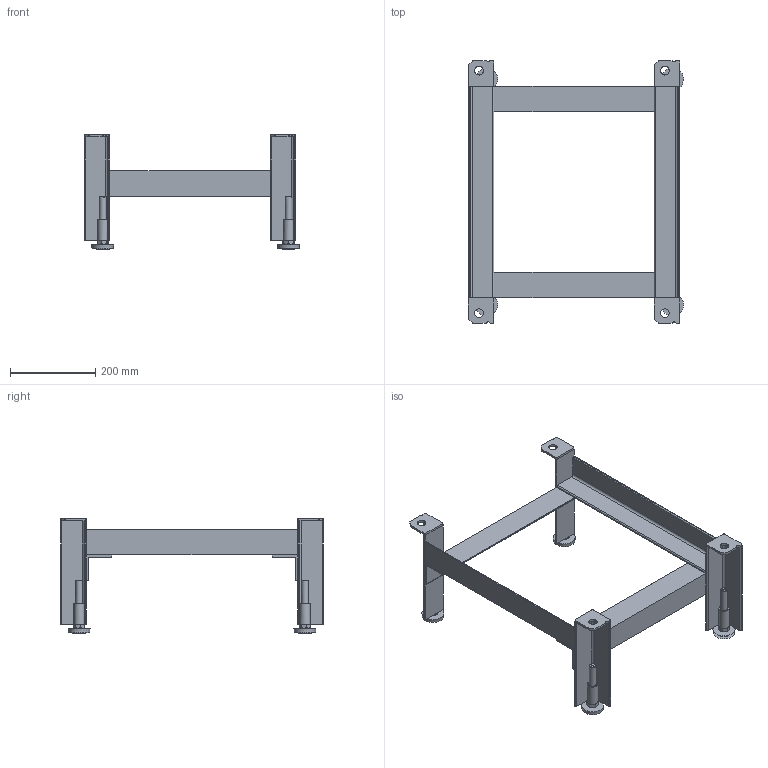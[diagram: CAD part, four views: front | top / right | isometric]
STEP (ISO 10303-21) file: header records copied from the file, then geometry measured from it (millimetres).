
FILE_DESCRIPTION(/* description */ (''),/* implementation_level */ '2;1');
FILE_NAME(/* name */ 'C:\ADSK_DM_WS\CAD_3D\06 Spezialprojekte\Verkleidung\Zeichnungen\Traggestell 68.stp',/* time_stamp */ '2021-11-25T09:22:38+01:00',/* author */ ('CPI'),/* organization */ (''),/* preprocessor_version */ 'ST-DEVELOPER v18.1',/* originating_system */ 'Autodesk Inventor 2022',/* authorisation */ '');
FILE_SCHEMA (('AUTOMOTIVE_DESIGN { 1 0 10303 214 3 1 1 }'));
Length unit declared in the file: millimetre
Products named in the file (1): 2021-03507
Bounding box: 506 x 617 x 269 mm (x, y, z)
Volume: 2003895.3 mm3; surface area: 735783.3 mm2
Topology: 1 solids, 1 shells, 372 faces, 972 edges, 612 vertices
Faces by surface type: plane 204, cylinder 104, cone 64
Full cylindrical faces by diameter (mm): 16 x4, 17 x4, 20.5 x4, 30 x4
Entity records: 11906 total; most frequent: CARTESIAN_POINT 2621, ORIENTED_EDGE 1960, DIRECTION 1866, EDGE_CURVE 980, AXIS2_PLACEMENT_3D 673, VERTEX_POINT 612, LINE 520, VECTOR 520
